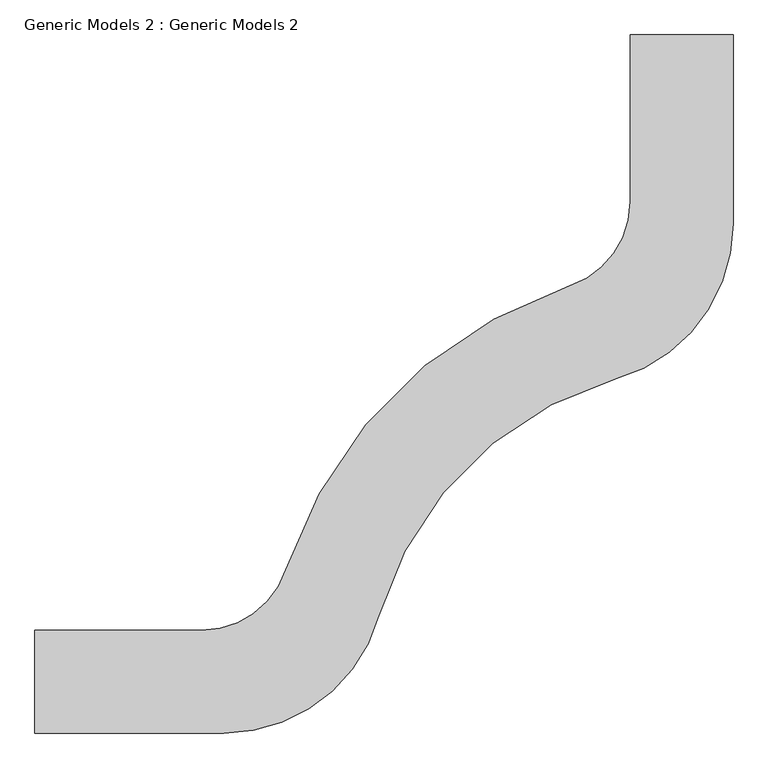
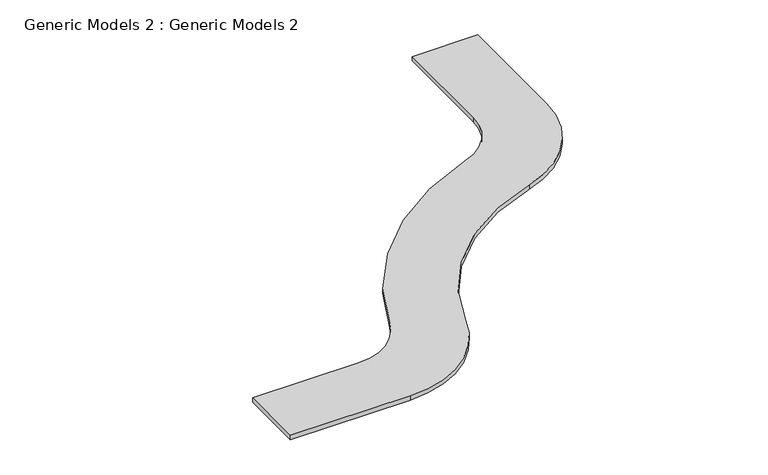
"""IFC4 building model written with IfcOpenShell, lengths in millimetres: proxy geometry, Generic Models 2 : Generic Models 2."""

from ifc_helpers import new_model, si_unit, point, frame, frame_2d, origin, place, context, project, spatial, polyline, circle_curve, trimmed, segment, composite_curve, outline, extrude, source, transform, mapped, element, save


def generic_models_2_generic_models_2_50785437(model_context):
    return source(origin(), model_context, "Body", "SweptSolid", [
        extrude(outline(composite_curve([segment(trimmed(circle_curve(frame_2d((-8040.3976545, 6343.0684151)), 1549.4), [point((-9510.8850634, 6831.2355384))], [point((-8528.5647778, 7813.555824))], False, "CARTESIAN"), True, "CONTINUOUS"), segment(trimmed(circle_curve(frame_2d((-8624.5976545, 8102.8320356)), 304.8), [point((-8528.5647778, 7813.555824))], [point((-8319.7976545, 8102.8320356))], True, "CARTESIAN"), True, "CONTINUOUS"), segment(polyline([(-8319.7976545, 8102.8320356), (-8319.7976545, 8679.8684151), (-7964.1976545, 8679.8684151), (-7964.1976545, 8027.9138086)]), True, "CONTINUOUS"), segment(trimmed(circle_curve(frame_2d((-8522.9976545, 8027.9138086)), 558.8), [point((-7964.1976545, 8027.9138086))], [point((-8369.1251908, 7490.7167266))], False, "CARTESIAN"), True, "CONTINUOUS"), segment(trimmed(circle_curve(frame_2d((-8040.3976545, 6343.0684151)), 1193.8), [point((-8369.1251908, 7490.7167266))], [point((-9188.0459661, 6671.7959513))], True, "CARTESIAN"), True, "CONTINUOUS"), segment(trimmed(circle_curve(frame_2d((-9725.243048, 6825.6684151)), 558.8), [point((-9188.0459661, 6671.7959513))], [point((-9725.243048, 6266.8684151))], False, "CARTESIAN"), True, "CONTINUOUS"), segment(polyline([(-9725.243048, 6266.8684151), (-10377.1976545, 6266.8684151), (-10377.1976545, 6622.4684151), (-9800.161275, 6622.4684151)]), True, "CONTINUOUS"), segment(trimmed(circle_curve(frame_2d((-9800.161275, 6927.2684151)), 304.8), [point((-9800.161275, 6622.4684151))], [point((-9510.8850634, 6831.2355384))], True, "CARTESIAN"), True, "CONTINUOUS")], self_intersect=False)), frame((0.0, 0.0, 965.2), z_axis=(0.0, 0.0, 1.0), x_axis=(1.0, 0.0, 0.0)), (0.0, 0.0, 1.0), 25.4),
    ])


if __name__ == "__main__":
    model = new_model("IFC4")
    model_context = context("Model", 3, world=origin())
    ifc_project = project(units=[si_unit("LENGTHUNIT", "METRE", prefix="MILLI")], contexts=[model_context])
    site = spatial("IfcSite", under=ifc_project)
    building = spatial("IfcBuilding", under=site)
    placement = place(None, origin())
    generic_models_2_generic_models_2_shape = generic_models_2_generic_models_2_50785437(model_context)
    element("IfcBuildingElementProxy", 1, Name="Generic Models 2 : Generic Models 2", ObjectType="Generic Models 2 : Generic Models 2", at=placement, inside=building, context=model_context, shape_type="MappedRepresentation", body=[
        mapped(generic_models_2_generic_models_2_shape, transform((0.0, 0.0, 0.0), x_axis=(1.0, 0.0, 0.0), y_axis=(0.0, 1.0, 0.0), z_axis=(0.0, 0.0, 1.0))),
    ])
    save(model, "model.ifc")
